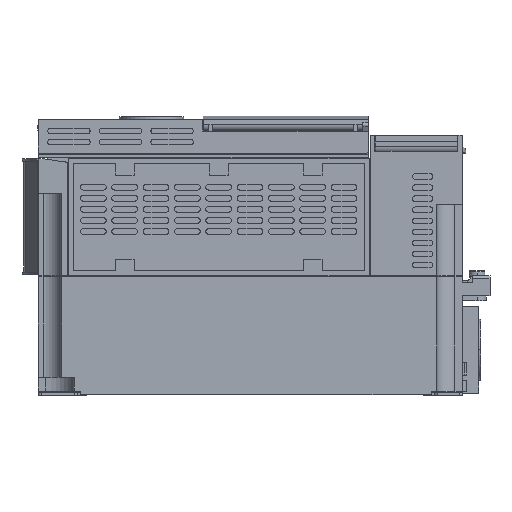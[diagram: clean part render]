
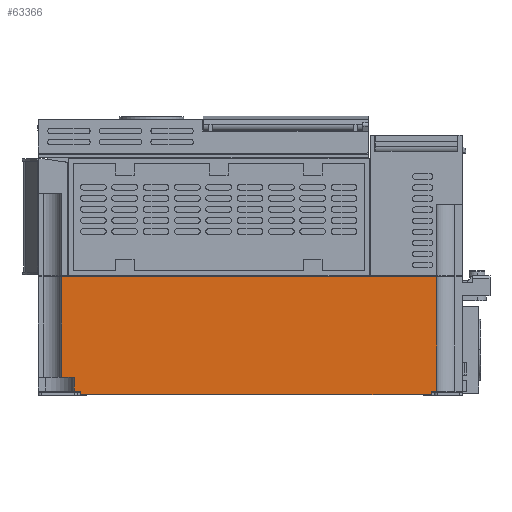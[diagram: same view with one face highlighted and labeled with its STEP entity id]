
A CAD part, left-side view. The second image highlights one B-rep face of the part: STEP entity #63366.
In plain terms, the highlighted planar face has unit normal (-1, 0, 0).
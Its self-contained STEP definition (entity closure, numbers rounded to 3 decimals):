
#15862=DIRECTION('',(0.,1.,0.));
#15863=VECTOR('',#15862,203.5);
#15864=CARTESIAN_POINT('',(-18.5,-15.,61.7));
#15865=LINE('',#15864,#15863);
#20435=DIRECTION('',(0.,-1.,0.));
#20436=VECTOR('',#20435,3.5);
#20437=CARTESIAN_POINT('',(-18.5,181.5,-0.5));
#20438=LINE('',#20437,#20436);
#20486=DIRECTION('',(0.,-1.,0.));
#20487=VECTOR('',#20486,7.);
#20488=CARTESIAN_POINT('',(-18.5,188.5,7.));
#20489=LINE('',#20488,#20487);
#20490=DIRECTION('',(0.,0.,-1.));
#20491=VECTOR('',#20490,7.5);
#20492=CARTESIAN_POINT('',(-18.5,181.5,7.));
#20493=LINE('',#20492,#20491);
#20502=DIRECTION('',(0.,0.,-1.));
#20503=VECTOR('',#20502,2.);
#20504=CARTESIAN_POINT('',(-18.5,-12.,-0.5));
#20505=LINE('',#20504,#20503);
#20506=DIRECTION('',(0.,1.,0.));
#20507=VECTOR('',#20506,190.);
#20508=CARTESIAN_POINT('',(-18.5,-12.,-2.5));
#20509=LINE('',#20508,#20507);
#20518=DIRECTION('',(0.,0.,1.));
#20519=VECTOR('',#20518,2.);
#20520=CARTESIAN_POINT('',(-18.5,178.,-2.5));
#20521=LINE('',#20520,#20519);
#20544=DIRECTION('',(0.,-1.,0.));
#20545=VECTOR('',#20544,3.);
#20546=CARTESIAN_POINT('',(-18.5,-12.,-0.5));
#20547=LINE('',#20546,#20545);
#20548=DIRECTION('',(0.,0.,1.));
#20549=VECTOR('',#20548,62.2);
#20550=CARTESIAN_POINT('',(-18.5,-15.,-0.5));
#20551=LINE('',#20550,#20549);
#20746=DIRECTION('',(0.,0.,-1.));
#20747=VECTOR('',#20746,54.7);
#20748=CARTESIAN_POINT('',(-18.5,188.5,61.7));
#20749=LINE('',#20748,#20747);
#29608=CARTESIAN_POINT('',(-18.5,-12.,-2.5));
#29610=VERTEX_POINT('',#29608);
#29612=CARTESIAN_POINT('',(-18.5,178.,-2.5));
#29613=VERTEX_POINT('',#29612);
#29646=CARTESIAN_POINT('',(-18.5,-12.,-0.5));
#29647=VERTEX_POINT('',#29646);
#29648=CARTESIAN_POINT('',(-18.5,178.,-0.5));
#29649=VERTEX_POINT('',#29648);
#29650=CARTESIAN_POINT('',(-18.5,181.5,-0.5));
#29651=VERTEX_POINT('',#29650);
#29652=CARTESIAN_POINT('',(-18.5,181.5,7.));
#29653=VERTEX_POINT('',#29652);
#29654=CARTESIAN_POINT('',(-18.5,188.5,7.));
#29655=VERTEX_POINT('',#29654);
#29656=CARTESIAN_POINT('',(-18.5,188.5,61.7));
#29657=VERTEX_POINT('',#29656);
#29658=CARTESIAN_POINT('',(-18.5,-15.,61.7));
#29659=VERTEX_POINT('',#29658);
#29660=CARTESIAN_POINT('',(-18.5,-15.,-0.5));
#29661=VERTEX_POINT('',#29660);
#63343=CARTESIAN_POINT('',(-18.5,86.75,29.6));
#63344=DIRECTION('',(1.,0.,0.));
#63345=DIRECTION('',(0.,-1.,0.));
#63346=AXIS2_PLACEMENT_3D('',#63343,#63344,#63345);
#63347=PLANE('',#63346);
#63349=ORIENTED_EDGE('',*,*,#63348,.T.);
#63351=ORIENTED_EDGE('',*,*,#63350,.T.);
#63353=ORIENTED_EDGE('',*,*,#63352,.T.);
#63354=ORIENTED_EDGE('',*,*,#63280,.F.);
#63355=ORIENTED_EDGE('',*,*,#63334,.F.);
#63356=ORIENTED_EDGE('',*,*,#63324,.F.);
#63358=ORIENTED_EDGE('',*,*,#63357,.F.);
#63359=ORIENTED_EDGE('',*,*,#57107,.F.);
#63361=ORIENTED_EDGE('',*,*,#63360,.F.);
#63363=ORIENTED_EDGE('',*,*,#63362,.F.);
#63364=EDGE_LOOP('',(#63349,#63351,#63353,#63354,#63355,#63356,#63358,#63359,
#63361,#63363));
#63365=FACE_OUTER_BOUND('',#63364,.F.);
#63366=ADVANCED_FACE('',(#63365),#63347,.F.);
#57107=EDGE_CURVE('',#29659,#29657,#15865,.T.);
#63280=EDGE_CURVE('',#29651,#29649,#20438,.T.);
#63324=EDGE_CURVE('',#29655,#29653,#20489,.T.);
#63334=EDGE_CURVE('',#29653,#29651,#20493,.T.);
#63348=EDGE_CURVE('',#29647,#29610,#20505,.T.);
#63350=EDGE_CURVE('',#29610,#29613,#20509,.T.);
#63352=EDGE_CURVE('',#29613,#29649,#20521,.T.);
#63357=EDGE_CURVE('',#29657,#29655,#20749,.T.);
#63360=EDGE_CURVE('',#29661,#29659,#20551,.T.);
#63362=EDGE_CURVE('',#29647,#29661,#20547,.T.);
